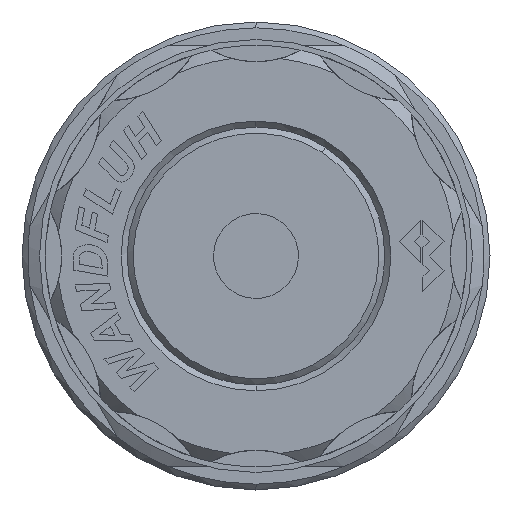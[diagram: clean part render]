
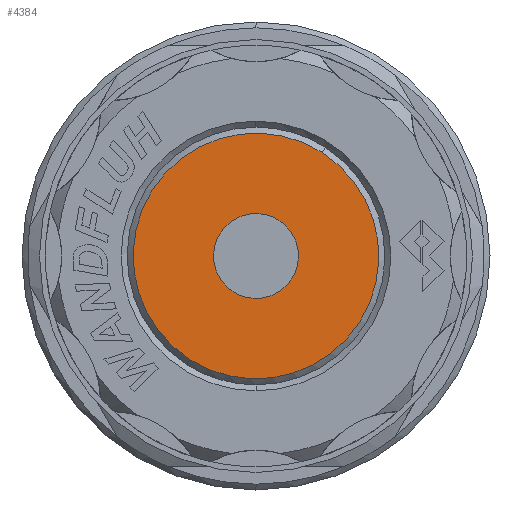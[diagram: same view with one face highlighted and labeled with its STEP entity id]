
A CAD part, left-side view. The second image highlights one B-rep face of the part: STEP entity #4384.
In plain terms, the highlighted planar face has unit normal (-1, 0, 0).
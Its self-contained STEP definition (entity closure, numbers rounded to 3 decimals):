
#1178 = AXIS2_PLACEMENT_3D ( 'NONE', #14459, #14403, #14398 ) ;
#3164 = ORIENTED_EDGE ( 'NONE', *, *, #19944, .T. ) ;
#4117 = CARTESIAN_POINT ( 'NONE',  ( -70.2, -5.658, 8.845 ) ) ;
#4384 = ADVANCED_FACE ( 'NONE', ( #7406, #20115 ), #20335, .F. ) ;
#7029 = DIRECTION ( 'NONE',  ( 0., 0.539, -0.842 ) ) ;
#7100 = DIRECTION ( 'NONE',  ( 1., 0., 0. ) ) ;
#7406 = FACE_BOUND ( 'NONE', #20585, .T. ) ;
#8050 = AXIS2_PLACEMENT_3D ( 'NONE', #8995, #8977, #8954 ) ;
#8154 = ORIENTED_EDGE ( 'NONE', *, *, #19914, .T. ) ;
#8519 = AXIS2_PLACEMENT_3D ( 'NONE', #8739, #7100, #7029 ) ;
#8679 = DIRECTION ( 'NONE',  ( 0., 0.539, -0.842 ) ) ;
#8708 = DIRECTION ( 'NONE',  ( -1., 0., 0. ) ) ;
#8739 = CARTESIAN_POINT ( 'NONE',  ( -70.2, 0., 0. ) ) ;
#8954 = DIRECTION ( 'NONE',  ( 0., 0.539, -0.842 ) ) ;
#8977 = DIRECTION ( 'NONE',  ( 1., 0., 0. ) ) ;
#8995 = CARTESIAN_POINT ( 'NONE',  ( -70.2, 0., 0. ) ) ;
#9141 = AXIS2_PLACEMENT_3D ( 'NONE', #11326, #8708, #8679 ) ;
#10408 = CIRCLE ( 'NONE', #17668, 3.625 ) ;
#11326 = CARTESIAN_POINT ( 'NONE',  ( -70.2, 0., 0. ) ) ;
#12093 = DIRECTION ( 'NONE',  ( 0., 0.539, -0.842 ) ) ;
#12107 = DIRECTION ( 'NONE',  ( 1., 0., 0. ) ) ;
#12113 = CARTESIAN_POINT ( 'NONE',  ( -70.2, 0., 0. ) ) ;
#12274 = CIRCLE ( 'NONE', #8050, 3.625 ) ;
#14398 = DIRECTION ( 'NONE',  ( 0., 0.539, -0.842 ) ) ;
#14403 = DIRECTION ( 'NONE',  ( -1., 0., 0. ) ) ;
#14459 = CARTESIAN_POINT ( 'NONE',  ( -70.2, 0., 0. ) ) ;
#14561 = VERTEX_POINT ( 'NONE', #4117 ) ;
#15435 = CARTESIAN_POINT ( 'NONE',  ( -70.2, 5.658, -8.845 ) ) ;
#15976 = ORIENTED_EDGE ( 'NONE', *, *, #17486, .T. ) ;
#16536 = EDGE_LOOP ( 'NONE', ( #3164, #15976 ) ) ;
#17050 = VERTEX_POINT ( 'NONE', #18059 ) ;
#17384 = VERTEX_POINT ( 'NONE', #15435 ) ;
#17486 = EDGE_CURVE ( 'NONE', #14561, #17384, #18092, .T. ) ;
#17668 = AXIS2_PLACEMENT_3D ( 'NONE', #12113, #12107, #12093 ) ;
#17709 = EDGE_CURVE ( 'NONE', #17050, #21267, #10408, .T. ) ;
#18059 = CARTESIAN_POINT ( 'NONE',  ( -70.2, -1.953, 3.054 ) ) ;
#18092 = CIRCLE ( 'NONE', #1178, 10.5 ) ;
#19079 = CARTESIAN_POINT ( 'NONE',  ( -70.2, 1.953, -3.054 ) ) ;
#19914 = EDGE_CURVE ( 'NONE', #21267, #17050, #12274, .T. ) ;
#19944 = EDGE_CURVE ( 'NONE', #17384, #14561, #20139, .T. ) ;
#20115 = FACE_OUTER_BOUND ( 'NONE', #16536, .T. ) ;
#20139 = CIRCLE ( 'NONE', #9141, 10.5 ) ;
#20335 = PLANE ( 'NONE',  #8519 ) ;
#20585 = EDGE_LOOP ( 'NONE', ( #8154, #20863 ) ) ;
#20863 = ORIENTED_EDGE ( 'NONE', *, *, #17709, .T. ) ;
#21267 = VERTEX_POINT ( 'NONE', #19079 ) ;
